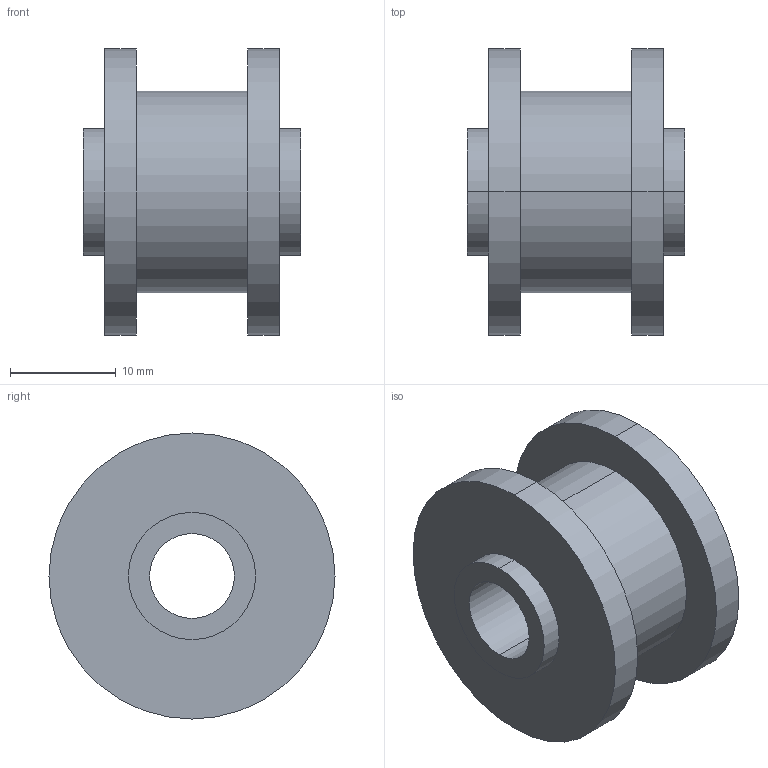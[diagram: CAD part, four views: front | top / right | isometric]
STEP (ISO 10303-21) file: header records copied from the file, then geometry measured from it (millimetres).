
FILE_DESCRIPTION (( 'STEP AP203' ), '1' );
FILE_NAME ('T090044.STEP', '2017-03-22T13:02:09', ( 'Localadmin' ), ( 'Microsoft' ), 'SwSTEP 2.0', 'SolidWorks 2016', '' );
FILE_SCHEMA (( 'CONFIG_CONTROL_DESIGN' ));
Length unit declared in the file: millimetre
Products named in the file (1): T090044
Bounding box: 20.5 x 27 x 27 mm (x, y, z)
Volume: 5834.3 mm3; surface area: 3424.3 mm2
Topology: 1 solids, 1 shells, 18 faces, 36 edges, 24 vertices
Faces by surface type: cylinder 12, plane 6
Entity records: 565 total; most frequent: DIRECTION 98, CARTESIAN_POINT 79, ORIENTED_EDGE 72, AXIS2_PLACEMENT_3D 43, EDGE_CURVE 36, EDGE_LOOP 24, VERTEX_POINT 24, CIRCLE 24
